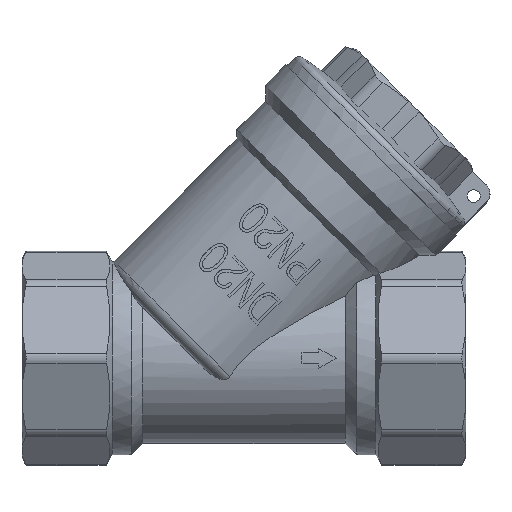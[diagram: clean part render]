
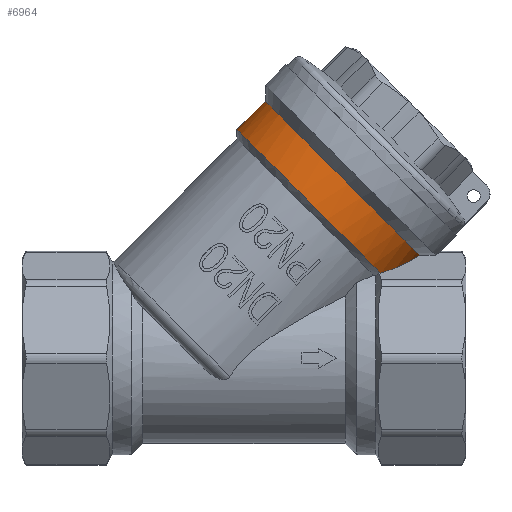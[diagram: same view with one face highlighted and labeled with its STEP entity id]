
A CAD part, top view. The second image highlights one B-rep face of the part: STEP entity #6964.
In plain terms, the highlighted cylindrical face has radius 17 mm (diameter 34 mm), a partial arc.
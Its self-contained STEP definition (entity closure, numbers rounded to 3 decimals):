
#224=ELLIPSE('',#7500,26.022,17.);
#225=ELLIPSE('',#7501,26.022,17.);
#1467=CYLINDRICAL_SURFACE('',#7499,17.);
#1841=FACE_OUTER_BOUND('',#2255,.T.);
#2255=EDGE_LOOP('',(#6079,#6080,#6081,#6082));
#2517=CIRCLE('',#7498,17.);
#2518=CIRCLE('',#7502,17.);
#3155=VERTEX_POINT('',#17370);
#3156=VERTEX_POINT('',#17374);
#3158=VERTEX_POINT('',#17385);
#3159=VERTEX_POINT('',#17387);
#4168=EDGE_CURVE('',#3156,#3155,#2517,.T.);
#4171=EDGE_CURVE('',#3156,#3158,#224,.T.);
#4172=EDGE_CURVE('',#3159,#3155,#225,.T.);
#4173=EDGE_CURVE('',#3158,#3159,#2518,.T.);
#6079=ORIENTED_EDGE('',*,*,#4171,.F.);
#6080=ORIENTED_EDGE('',*,*,#4168,.T.);
#6081=ORIENTED_EDGE('',*,*,#4172,.F.);
#6082=ORIENTED_EDGE('',*,*,#4173,.F.);
#6964=ADVANCED_FACE('',(#1841),#1467,.T.);
#7498=AXIS2_PLACEMENT_3D('',#17375,#8830,#8831);
#7499=AXIS2_PLACEMENT_3D('',#17384,#8832,#8833);
#7500=AXIS2_PLACEMENT_3D('',#17386,#8834,#8835);
#7501=AXIS2_PLACEMENT_3D('',#17388,#8836,#8837);
#7502=AXIS2_PLACEMENT_3D('',#17389,#8838,#8839);
#8830=DIRECTION('center_axis',(0.707,0.707,0.));
#8831=DIRECTION('ref_axis',(0.707,-0.707,0.));
#8832=DIRECTION('center_axis',(0.707,0.707,0.));
#8833=DIRECTION('ref_axis',(-0.707,0.707,0.));
#8834=DIRECTION('center_axis',(0.,-0.924,0.383));
#8835=DIRECTION('ref_axis',(-0.934,-0.137,-0.33));
#8836=DIRECTION('center_axis',(0.,-0.924,-0.383));
#8837=DIRECTION('ref_axis',(-0.934,-0.137,0.33));
#8838=DIRECTION('center_axis',(0.707,0.707,0.));
#8839=DIRECTION('ref_axis',(0.707,-0.707,0.));
#17370=CARTESIAN_POINT('',(21.246,13.189,8.663));
#17374=CARTESIAN_POINT('',(21.246,13.189,-8.663));
#17375=CARTESIAN_POINT('Origin',(10.903,23.532,0.));
#17384=CARTESIAN_POINT('Origin',(13.113,25.741,0.));
#17385=CARTESIAN_POINT('',(27.27,16.003,-1.868));
#17386=CARTESIAN_POINT('Origin',(4.148,16.777,0.));
#17387=CARTESIAN_POINT('',(27.27,16.003,1.868));
#17388=CARTESIAN_POINT('Origin',(4.148,16.777,0.));
#17389=CARTESIAN_POINT('Origin',(15.322,27.951,0.));
